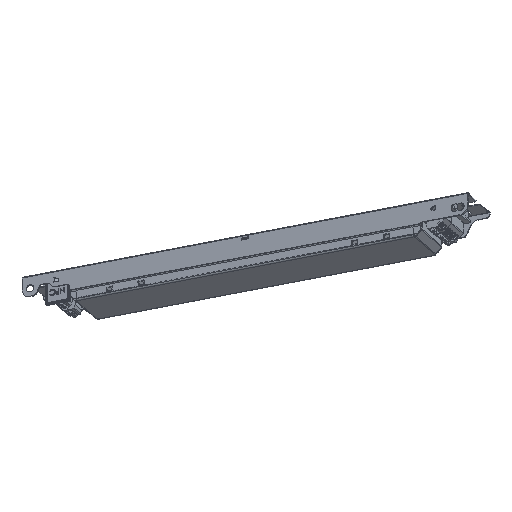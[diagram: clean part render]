
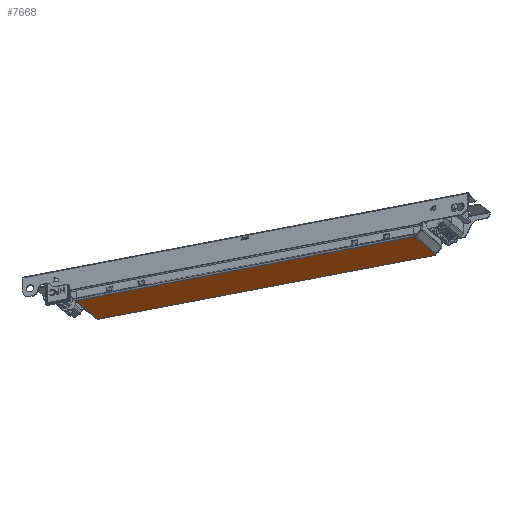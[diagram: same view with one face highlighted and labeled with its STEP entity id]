
A CAD part, front view. The second image highlights one B-rep face of the part: STEP entity #7668.
In plain terms, the highlighted planar face has unit normal (0, -0.407, -0.913).
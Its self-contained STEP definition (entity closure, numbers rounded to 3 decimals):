
#655 = ORIENTED_EDGE ( 'NONE', *, *, #9395, .T. ) ;
#750 = ORIENTED_EDGE ( 'NONE', *, *, #25067, .F. ) ;
#934 = EDGE_CURVE ( 'NONE', #18960, #4286, #30312, .T. ) ;
#1131 = VECTOR ( 'NONE', #12543, 1000. ) ;
#2287 = CARTESIAN_POINT ( 'NONE',  ( -98.722, -37.097, 265.587 ) ) ;
#2622 = EDGE_LOOP ( 'NONE', ( #750, #38280, #36794, #655, #4182, #34892, #39238, #8528, #34444, #18435, #17594, #20885 ) ) ;
#2684 = DIRECTION ( 'NONE',  ( 0.423, 0.828, -0.369 ) ) ;
#2905 = CARTESIAN_POINT ( 'NONE',  ( 188.753, 67.695, 218.93 ) ) ;
#3523 = VECTOR ( 'NONE', #19351, 1000. ) ;
#3590 = VECTOR ( 'NONE', #13430, 1000. ) ;
#4182 = ORIENTED_EDGE ( 'NONE', *, *, #12471, .T. ) ;
#4286 = VERTEX_POINT ( 'NONE', #26549 ) ;
#4625 = VERTEX_POINT ( 'NONE', #25160 ) ;
#5489 = LINE ( 'NONE', #27378, #13451 ) ;
#7038 = DIRECTION ( 'NONE',  ( 0.423, 0.828, -0.369 ) ) ;
#7668 = ADVANCED_FACE ( 'NONE', ( #41833 ), #37738, .F. ) ;
#7688 = CARTESIAN_POINT ( 'NONE',  ( 188.425, 67.835, 218.868 ) ) ;
#8528 = ORIENTED_EDGE ( 'NONE', *, *, #13605, .T. ) ;
#9387 = CARTESIAN_POINT ( 'NONE',  ( 93.472, -118.97, 302.039 ) ) ;
#9395 = EDGE_CURVE ( 'NONE', #35842, #11902, #12375, .T. ) ;
#9448 = LINE ( 'NONE', #23976, #37649 ) ;
#9459 = DIRECTION ( 'NONE',  ( 0.423, 0.828, -0.369 ) ) ;
#9984 = CARTESIAN_POINT ( 'NONE',  ( -3.863, 148.74, 182.847 ) ) ;
#10106 = VECTOR ( 'NONE', #9459, 1000. ) ;
#10177 = LINE ( 'NONE', #2287, #1131 ) ;
#11577 = CARTESIAN_POINT ( 'NONE',  ( -3.769, 149.708, 182.416 ) ) ;
#11902 = VERTEX_POINT ( 'NONE', #9984 ) ;
#12375 = LINE ( 'NONE', #18700, #20300 ) ;
#12410 = VECTOR ( 'NONE', #2684, 1000. ) ;
#12431 = EDGE_CURVE ( 'NONE', #36830, #41645, #38711, .T. ) ;
#12471 = EDGE_CURVE ( 'NONE', #11902, #4286, #9448, .T. ) ;
#12515 = VECTOR ( 'NONE', #31176, 1000. ) ;
#12543 = DIRECTION ( 'NONE',  ( 0.423, 0.828, -0.369 ) ) ;
#13430 = DIRECTION ( 'NONE',  ( -0.906, 0.386, -0.172 ) ) ;
#13451 = VECTOR ( 'NONE', #37520, 1000. ) ;
#13605 = EDGE_CURVE ( 'NONE', #27092, #33233, #20515, .T. ) ;
#14066 = CARTESIAN_POINT ( 'NONE',  ( 93.144, -118.83, 301.977 ) ) ;
#14094 = VERTEX_POINT ( 'NONE', #27252 ) ;
#14469 = EDGE_CURVE ( 'NONE', #14094, #27964, #21497, .T. ) ;
#16190 = CARTESIAN_POINT ( 'NONE',  ( 199.95, 90.414, 208.815 ) ) ;
#17320 = DIRECTION ( 'NONE',  ( 0., 0.407, 0.914 ) ) ;
#17594 = ORIENTED_EDGE ( 'NONE', *, *, #14469, .F. ) ;
#18435 = ORIENTED_EDGE ( 'NONE', *, *, #37457, .F. ) ;
#18700 = CARTESIAN_POINT ( 'NONE',  ( -43.76, 165.736, 175.28 ) ) ;
#18960 = VERTEX_POINT ( 'NONE', #11577 ) ;
#19351 = DIRECTION ( 'NONE',  ( -0.906, 0.386, -0.172 ) ) ;
#19741 = CARTESIAN_POINT ( 'NONE',  ( 93.144, -118.83, 301.977 ) ) ;
#20300 = VECTOR ( 'NONE', #22105, 1000. ) ;
#20515 = LINE ( 'NONE', #39776, #37611 ) ;
#20846 = EDGE_CURVE ( 'NONE', #33233, #4625, #10177, .T. ) ;
#20885 = ORIENTED_EDGE ( 'NONE', *, *, #35602, .F. ) ;
#21167 = VECTOR ( 'NONE', #27265, 1000. ) ;
#21497 = LINE ( 'NONE', #14066, #12515 ) ;
#22105 = DIRECTION ( 'NONE',  ( -0.906, 0.386, -0.172 ) ) ;
#22628 = LINE ( 'NONE', #32930, #3523 ) ;
#22776 = EDGE_CURVE ( 'NONE', #35842, #41645, #36581, .T. ) ;
#23976 = CARTESIAN_POINT ( 'NONE',  ( -98.722, -37.097, 265.587 ) ) ;
#24236 = CARTESIAN_POINT ( 'NONE',  ( 188.002, 67.007, 219.237 ) ) ;
#25067 = EDGE_CURVE ( 'NONE', #36830, #39321, #38494, .T. ) ;
#25160 = CARTESIAN_POINT ( 'NONE',  ( 8.084, 172.147, 172.425 ) ) ;
#26549 = CARTESIAN_POINT ( 'NONE',  ( -3.441, 149.568, 182.478 ) ) ;
#27092 = VERTEX_POINT ( 'NONE', #31508 ) ;
#27106 = LINE ( 'NONE', #29825, #10106 ) ;
#27252 = CARTESIAN_POINT ( 'NONE',  ( 199.527, 89.586, 209.184 ) ) ;
#27265 = DIRECTION ( 'NONE',  ( 0.906, -0.386, 0.172 ) ) ;
#27378 = CARTESIAN_POINT ( 'NONE',  ( -31.812, 189.143, 164.858 ) ) ;
#27485 = VECTOR ( 'NONE', #43647, 1000. ) ;
#27964 = VERTEX_POINT ( 'NONE', #16190 ) ;
#29825 = CARTESIAN_POINT ( 'NONE',  ( -99.05, -36.957, 265.524 ) ) ;
#30312 = LINE ( 'NONE', #37562, #21167 ) ;
#30903 = CARTESIAN_POINT ( 'NONE',  ( -138.618, -20.101, 258.02 ) ) ;
#31176 = DIRECTION ( 'NONE',  ( 0.423, 0.828, -0.369 ) ) ;
#31508 = CARTESIAN_POINT ( 'NONE',  ( 7.333, 171.459, 172.732 ) ) ;
#32930 = CARTESIAN_POINT ( 'NONE',  ( -32.235, 188.315, 165.227 ) ) ;
#33233 = VERTEX_POINT ( 'NONE', #36912 ) ;
#34444 = ORIENTED_EDGE ( 'NONE', *, *, #20846, .T. ) ;
#34892 = ORIENTED_EDGE ( 'NONE', *, *, #934, .F. ) ;
#35602 = EDGE_CURVE ( 'NONE', #39321, #14094, #22628, .T. ) ;
#35842 = VERTEX_POINT ( 'NONE', #24236 ) ;
#36472 = AXIS2_PLACEMENT_3D ( 'NONE', #30903, #17320, #41163 ) ;
#36518 = DIRECTION ( 'NONE',  ( 0.906, -0.386, 0.172 ) ) ;
#36581 = LINE ( 'NONE', #19741, #27485 ) ;
#36794 = ORIENTED_EDGE ( 'NONE', *, *, #22776, .F. ) ;
#36817 = CARTESIAN_POINT ( 'NONE',  ( 199.856, 89.446, 209.246 ) ) ;
#36830 = VERTEX_POINT ( 'NONE', #2905 ) ;
#36912 = CARTESIAN_POINT ( 'NONE',  ( 7.662, 171.319, 172.794 ) ) ;
#37457 = EDGE_CURVE ( 'NONE', #27964, #4625, #5489, .T. ) ;
#37520 = DIRECTION ( 'NONE',  ( -0.906, 0.386, -0.172 ) ) ;
#37562 = CARTESIAN_POINT ( 'NONE',  ( -43.337, 166.564, 174.911 ) ) ;
#37611 = VECTOR ( 'NONE', #36518, 1000. ) ;
#37649 = VECTOR ( 'NONE', #7038, 1000. ) ;
#37738 = PLANE ( 'NONE',  #36472 ) ;
#38280 = ORIENTED_EDGE ( 'NONE', *, *, #12431, .T. ) ;
#38494 = LINE ( 'NONE', #9387, #12410 ) ;
#38711 = LINE ( 'NONE', #44126, #3590 ) ;
#39238 = ORIENTED_EDGE ( 'NONE', *, *, #39291, .T. ) ;
#39291 = EDGE_CURVE ( 'NONE', #18960, #27092, #27106, .T. ) ;
#39321 = VERTEX_POINT ( 'NONE', #36817 ) ;
#39776 = CARTESIAN_POINT ( 'NONE',  ( -32.235, 188.315, 165.227 ) ) ;
#41163 = DIRECTION ( 'NONE',  ( 0.906, -0.386, 0.172 ) ) ;
#41645 = VERTEX_POINT ( 'NONE', #7688 ) ;
#41833 = FACE_OUTER_BOUND ( 'NONE', #2622, .T. ) ;
#43647 = DIRECTION ( 'NONE',  ( 0.423, 0.828, -0.369 ) ) ;
#44126 = CARTESIAN_POINT ( 'NONE',  ( -43.337, 166.564, 174.911 ) ) ;
